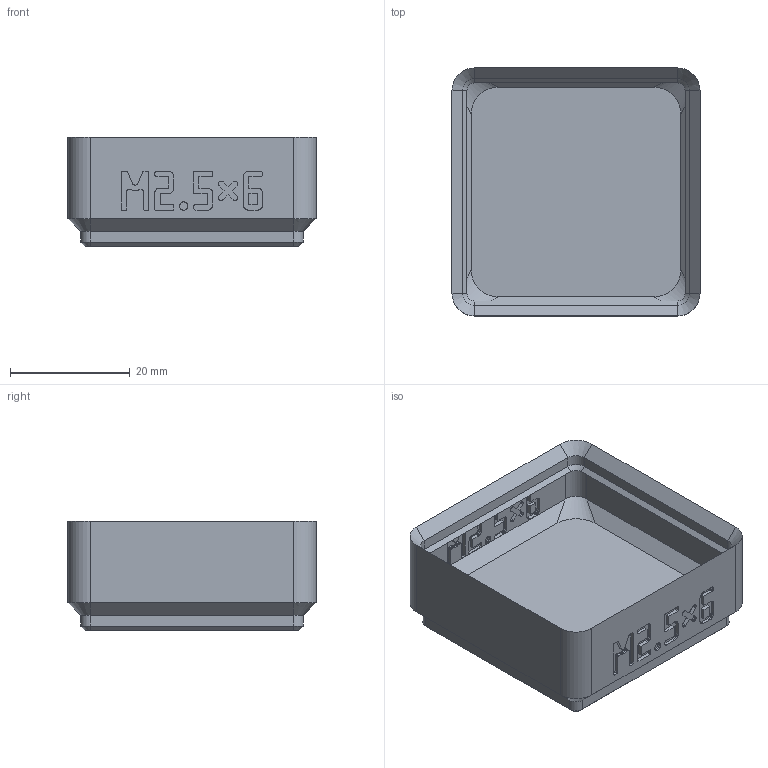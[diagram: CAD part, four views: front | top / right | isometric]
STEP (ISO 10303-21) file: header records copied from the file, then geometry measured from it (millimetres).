
FILE_DESCRIPTION(('Open CASCADE Model'),'2;1');
FILE_NAME('bin_m2_5x6','2026-11-16T17:21:41',('Author'),('Open CASCADE') ,'Open CASCADE STEP processor 8.0','build123d','Unknown');
FILE_SCHEMA(('AUTOMOTIVE_DESIGN { 1 0 10303 214 1 1 1 1 }'));
Products named in the file (1): bin_m2_5x6
Bounding box: 41.5 x 41.5 x 18.4 mm (x, y, z)
Volume: 10961.8 mm3; surface area: 8372.3 mm2
Topology: 1 solids, 1 shells, 1267 faces, 3670 edges, 2428 vertices
Faces by surface type: plane 1219, cylinder 24, cone 16, bspline 8
Full cylindrical faces by diameter (mm): 3.2 x4, 6.5 x4
Entity records: 86096 total; most frequent: CARTESIAN_POINT 17298, DIRECTION 11098, LINE 8430, VECTOR 8430, ORIENTED_EDGE 7340, PCURVE 7340, DEFINITIONAL_REPRESENTATION 7340, EDGE_CURVE 3670
